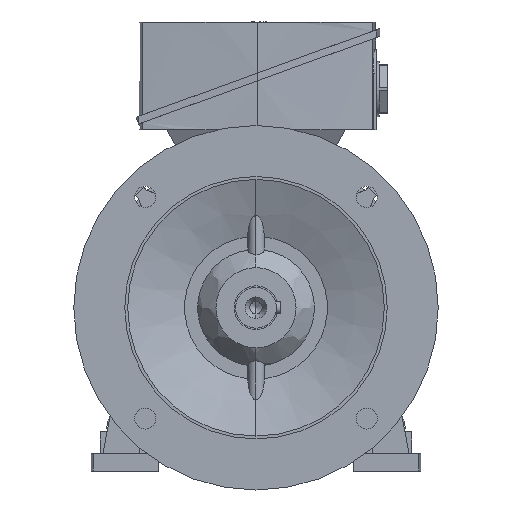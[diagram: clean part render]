
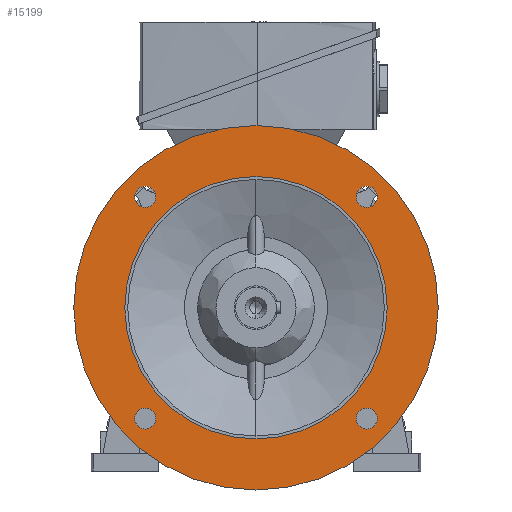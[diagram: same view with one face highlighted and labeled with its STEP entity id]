
A CAD part, left-side view. The second image highlights one B-rep face of the part: STEP entity #15199.
In plain terms, the highlighted planar face has unit normal (-1, 0, 0).
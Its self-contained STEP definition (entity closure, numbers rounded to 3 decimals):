
#766 = EDGE_CURVE ( 'NONE', #44484, #32493, #3097, .T. ) ;
#1254 = ORIENTED_EDGE ( 'NONE', *, *, #766, .F. ) ;
#2848 = VERTEX_POINT ( 'NONE', #19312 ) ;
#3097 = CIRCLE ( 'NONE', #32532, 125. ) ;
#3381 = CARTESIAN_POINT ( 'NONE',  ( -40., 76.014, -68.764 ) ) ;
#3637 = AXIS2_PLACEMENT_3D ( 'NONE', #20445, #20396, #20353 ) ;
#3715 = VERTEX_POINT ( 'NONE', #35836 ) ;
#3872 = EDGE_CURVE ( 'NONE', #3715, #25751, #19034, .T. ) ;
#3995 = FACE_BOUND ( 'NONE', #13263, .T. ) ;
#4036 = FACE_BOUND ( 'NONE', #13068, .T. ) ;
#4048 = FACE_BOUND ( 'NONE', #22664, .T. ) ;
#4123 = AXIS2_PLACEMENT_3D ( 'NONE', #26307, #26301, #26260 ) ;
#4259 = EDGE_CURVE ( 'NONE', #24360, #38836, #39833, .T. ) ;
#4437 = CIRCLE ( 'NONE', #17477, 125. ) ;
#4669 = EDGE_CURVE ( 'NONE', #26402, #22597, #25467, .T. ) ;
#4680 = DIRECTION ( 'NONE',  ( 0., 0., -1. ) ) ;
#4692 = DIRECTION ( 'NONE',  ( 1., 0., 0. ) ) ;
#4734 = CARTESIAN_POINT ( 'NONE',  ( -40., -76.014, -76.014 ) ) ;
#5317 = CARTESIAN_POINT ( 'NONE',  ( -40., 0., 0. ) ) ;
#5456 = DIRECTION ( 'NONE',  ( 1., 0., 0. ) ) ;
#5531 = DIRECTION ( 'NONE',  ( 0., 0., 1. ) ) ;
#7103 = ORIENTED_EDGE ( 'NONE', *, *, #22214, .F. ) ;
#7535 = ORIENTED_EDGE ( 'NONE', *, *, #21635, .T. ) ;
#9737 = CIRCLE ( 'NONE', #19782, 7.25 ) ;
#10083 = ORIENTED_EDGE ( 'NONE', *, *, #4259, .T. ) ;
#10356 = AXIS2_PLACEMENT_3D ( 'NONE', #37683, #37555, #37510 ) ;
#10807 = CARTESIAN_POINT ( 'NONE',  ( -40., 76.014, 68.764 ) ) ;
#11237 = VERTEX_POINT ( 'NONE', #26145 ) ;
#12443 = EDGE_LOOP ( 'NONE', ( #44822, #7535 ) ) ;
#12666 = EDGE_LOOP ( 'NONE', ( #19989, #28930 ) ) ;
#13068 = EDGE_LOOP ( 'NONE', ( #38709, #25317 ) ) ;
#13192 = CARTESIAN_POINT ( 'NONE',  ( -40., 0., -125. ) ) ;
#13263 = EDGE_LOOP ( 'NONE', ( #10083, #20552 ) ) ;
#13584 = FACE_BOUND ( 'NONE', #12666, .T. ) ;
#13628 = FACE_OUTER_BOUND ( 'NONE', #22091, .T. ) ;
#13669 = FACE_BOUND ( 'NONE', #12443, .T. ) ;
#15091 = EDGE_CURVE ( 'NONE', #38836, #24360, #38268, .T. ) ;
#15199 = ADVANCED_FACE ( 'NONE', ( #13584, #13628, #4036, #3995, #4048, #13669 ), #20728, .T. ) ;
#15935 = AXIS2_PLACEMENT_3D ( 'NONE', #4734, #4692, #4680 ) ;
#16272 = CIRCLE ( 'NONE', #26756, 90. ) ;
#16525 = VERTEX_POINT ( 'NONE', #43746 ) ;
#17477 = AXIS2_PLACEMENT_3D ( 'NONE', #32479, #32339, #32278 ) ;
#18176 = AXIS2_PLACEMENT_3D ( 'NONE', #18516, #18507, #18457 ) ;
#18457 = DIRECTION ( 'NONE',  ( 0., 0., -1. ) ) ;
#18507 = DIRECTION ( 'NONE',  ( 1., 0., 0. ) ) ;
#18516 = CARTESIAN_POINT ( 'NONE',  ( -40., 76.014, 76.014 ) ) ;
#18782 = EDGE_CURVE ( 'NONE', #2848, #11237, #16272, .T. ) ;
#19034 = CIRCLE ( 'NONE', #19924, 7.25 ) ;
#19088 = AXIS2_PLACEMENT_3D ( 'NONE', #35392, #35354, #35303 ) ;
#19312 = CARTESIAN_POINT ( 'NONE',  ( -40., 0., 90. ) ) ;
#19782 = AXIS2_PLACEMENT_3D ( 'NONE', #41915, #41817, #41777 ) ;
#19924 = AXIS2_PLACEMENT_3D ( 'NONE', #31261, #31253, #31212 ) ;
#19989 = ORIENTED_EDGE ( 'NONE', *, *, #18782, .T. ) ;
#20138 = DIRECTION ( 'NONE',  ( 0., 0., -1. ) ) ;
#20249 = DIRECTION ( 'NONE',  ( 1., 0., 0. ) ) ;
#20278 = CARTESIAN_POINT ( 'NONE',  ( -40., 76.014, -76.014 ) ) ;
#20353 = DIRECTION ( 'NONE',  ( 0., 0., 1. ) ) ;
#20396 = DIRECTION ( 'NONE',  ( -1., 0., 0. ) ) ;
#20445 = CARTESIAN_POINT ( 'NONE',  ( -40., 107.5, 0. ) ) ;
#20552 = ORIENTED_EDGE ( 'NONE', *, *, #15091, .T. ) ;
#20728 = PLANE ( 'NONE',  #3637 ) ;
#21635 = EDGE_CURVE ( 'NONE', #22597, #26402, #9737, .T. ) ;
#21972 = CARTESIAN_POINT ( 'NONE',  ( -40., 0., 125. ) ) ;
#22091 = EDGE_LOOP ( 'NONE', ( #7103, #1254 ) ) ;
#22102 = EDGE_CURVE ( 'NONE', #38329, #16525, #38936, .T. ) ;
#22214 = EDGE_CURVE ( 'NONE', #32493, #44484, #4437, .T. ) ;
#22594 = DIRECTION ( 'NONE',  ( 0., 0., -1. ) ) ;
#22597 = VERTEX_POINT ( 'NONE', #23209 ) ;
#22664 = EDGE_LOOP ( 'NONE', ( #32070, #38346 ) ) ;
#22792 = DIRECTION ( 'NONE',  ( 1., 0., 0. ) ) ;
#22837 = CARTESIAN_POINT ( 'NONE',  ( -40., -76.014, 76.014 ) ) ;
#23209 = CARTESIAN_POINT ( 'NONE',  ( -40., -76.014, -68.764 ) ) ;
#24360 = VERTEX_POINT ( 'NONE', #10807 ) ;
#25317 = ORIENTED_EDGE ( 'NONE', *, *, #22102, .T. ) ;
#25467 = CIRCLE ( 'NONE', #15935, 7.25 ) ;
#25751 = VERTEX_POINT ( 'NONE', #3381 ) ;
#26145 = CARTESIAN_POINT ( 'NONE',  ( -40., 0., -90. ) ) ;
#26260 = DIRECTION ( 'NONE',  ( 0., 0., -1. ) ) ;
#26301 = DIRECTION ( 'NONE',  ( 1., 0., 0. ) ) ;
#26307 = CARTESIAN_POINT ( 'NONE',  ( -40., 76.014, 76.014 ) ) ;
#26402 = VERTEX_POINT ( 'NONE', #38034 ) ;
#26719 = DIRECTION ( 'NONE',  ( 1., 0., 0. ) ) ;
#26756 = AXIS2_PLACEMENT_3D ( 'NONE', #5317, #5456, #5531 ) ;
#26994 = DIRECTION ( 'NONE',  ( 0., 0., 1. ) ) ;
#27012 = CIRCLE ( 'NONE', #28744, 7.25 ) ;
#28154 = CARTESIAN_POINT ( 'NONE',  ( -40., 76.014, 83.264 ) ) ;
#28744 = AXIS2_PLACEMENT_3D ( 'NONE', #22837, #22792, #22594 ) ;
#28930 = ORIENTED_EDGE ( 'NONE', *, *, #44121, .T. ) ;
#30467 = CARTESIAN_POINT ( 'NONE',  ( -40., -76.014, 83.264 ) ) ;
#31212 = DIRECTION ( 'NONE',  ( 0., 0., -1. ) ) ;
#31253 = DIRECTION ( 'NONE',  ( 1., 0., 0. ) ) ;
#31261 = CARTESIAN_POINT ( 'NONE',  ( -40., 76.014, -76.014 ) ) ;
#32070 = ORIENTED_EDGE ( 'NONE', *, *, #3872, .T. ) ;
#32278 = DIRECTION ( 'NONE',  ( 0., 0., 1. ) ) ;
#32339 = DIRECTION ( 'NONE',  ( 1., 0., 0. ) ) ;
#32422 = EDGE_CURVE ( 'NONE', #16525, #38329, #27012, .T. ) ;
#32479 = CARTESIAN_POINT ( 'NONE',  ( -40., 0., 0. ) ) ;
#32493 = VERTEX_POINT ( 'NONE', #21972 ) ;
#32532 = AXIS2_PLACEMENT_3D ( 'NONE', #34315, #26719, #26994 ) ;
#34315 = CARTESIAN_POINT ( 'NONE',  ( -40., 0., 0. ) ) ;
#35303 = DIRECTION ( 'NONE',  ( 0., 0., -1. ) ) ;
#35354 = DIRECTION ( 'NONE',  ( 1., 0., 0. ) ) ;
#35392 = CARTESIAN_POINT ( 'NONE',  ( -40., -76.014, 76.014 ) ) ;
#35836 = CARTESIAN_POINT ( 'NONE',  ( -40., 76.014, -83.264 ) ) ;
#36621 = CIRCLE ( 'NONE', #40004, 7.25 ) ;
#37510 = DIRECTION ( 'NONE',  ( 0., 0., 1. ) ) ;
#37555 = DIRECTION ( 'NONE',  ( 1., 0., 0. ) ) ;
#37683 = CARTESIAN_POINT ( 'NONE',  ( -40., 0., 0. ) ) ;
#38034 = CARTESIAN_POINT ( 'NONE',  ( -40., -76.014, -83.264 ) ) ;
#38268 = CIRCLE ( 'NONE', #4123, 7.25 ) ;
#38329 = VERTEX_POINT ( 'NONE', #30467 ) ;
#38346 = ORIENTED_EDGE ( 'NONE', *, *, #41643, .T. ) ;
#38709 = ORIENTED_EDGE ( 'NONE', *, *, #32422, .T. ) ;
#38836 = VERTEX_POINT ( 'NONE', #28154 ) ;
#38936 = CIRCLE ( 'NONE', #19088, 7.25 ) ;
#39833 = CIRCLE ( 'NONE', #18176, 7.25 ) ;
#40004 = AXIS2_PLACEMENT_3D ( 'NONE', #20278, #20249, #20138 ) ;
#40128 = CIRCLE ( 'NONE', #10356, 90. ) ;
#41643 = EDGE_CURVE ( 'NONE', #25751, #3715, #36621, .T. ) ;
#41777 = DIRECTION ( 'NONE',  ( 0., 0., -1. ) ) ;
#41817 = DIRECTION ( 'NONE',  ( 1., 0., 0. ) ) ;
#41915 = CARTESIAN_POINT ( 'NONE',  ( -40., -76.014, -76.014 ) ) ;
#43746 = CARTESIAN_POINT ( 'NONE',  ( -40., -76.014, 68.764 ) ) ;
#44121 = EDGE_CURVE ( 'NONE', #11237, #2848, #40128, .T. ) ;
#44484 = VERTEX_POINT ( 'NONE', #13192 ) ;
#44822 = ORIENTED_EDGE ( 'NONE', *, *, #4669, .T. ) ;
